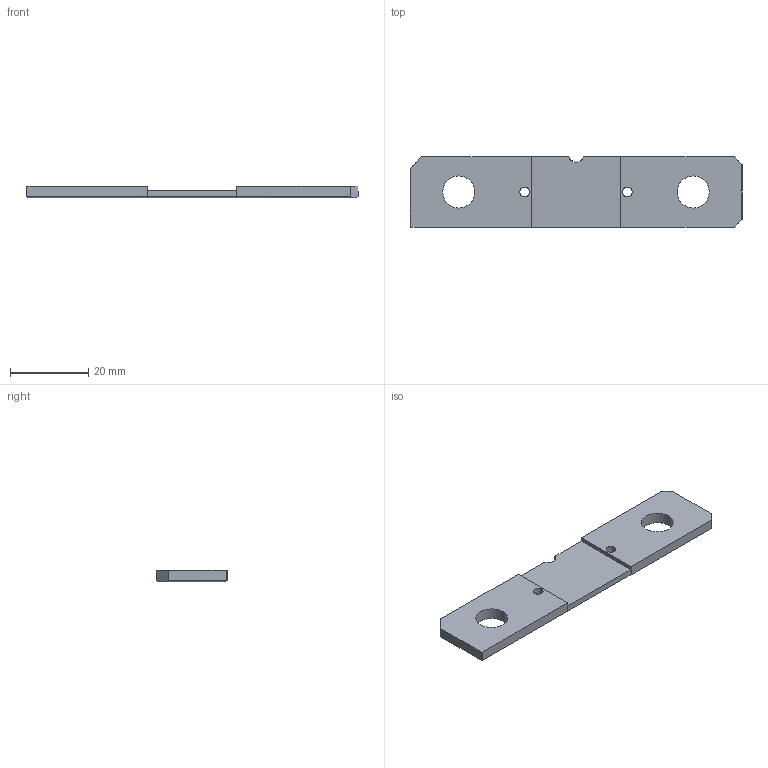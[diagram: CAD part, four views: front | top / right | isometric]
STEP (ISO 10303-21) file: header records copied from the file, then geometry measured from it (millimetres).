
FILE_DESCRIPTION (( 'STEP AP203' ), '1' );
FILE_NAME ('WSBS 8518-M3 250焜HM.STEP', '2017-04-06T19:24:00', ( '' ), ( '' ), 'SwSTEP 2.0', 'SolidWorks 2016', '' );
FILE_SCHEMA (( 'CONFIG_CONTROL_DESIGN' ));
Length unit declared in the file: inch
Products named in the file (2): WSBS 8518-M3 250焜HM
Bounding box: 84.99 x 17.98 x 3 mm (x, y, z)
Volume: 3757.5 mm3; surface area: 3542.1 mm2
Topology: 1 solids, 1 shells, 39 faces, 105 edges, 70 vertices
Faces by surface type: plane 21, cylinder 18
Entity records: 1412 total; most frequent: CARTESIAN_POINT 267, ORIENTED_EDGE 210, DIRECTION 200, EDGE_CURVE 105, VERTEX_POINT 70, AXIS2_PLACEMENT_3D 67, VECTOR 66, LINE 66
